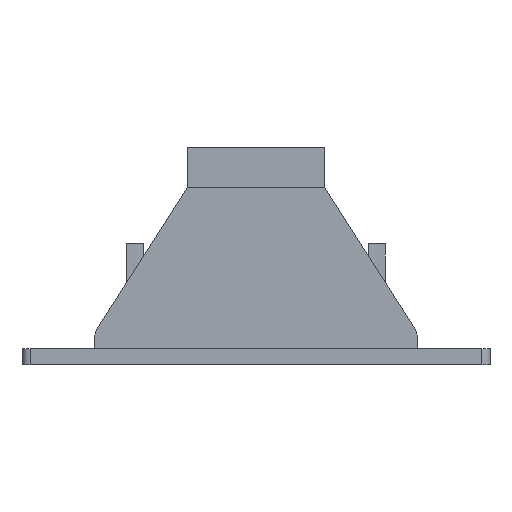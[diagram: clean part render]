
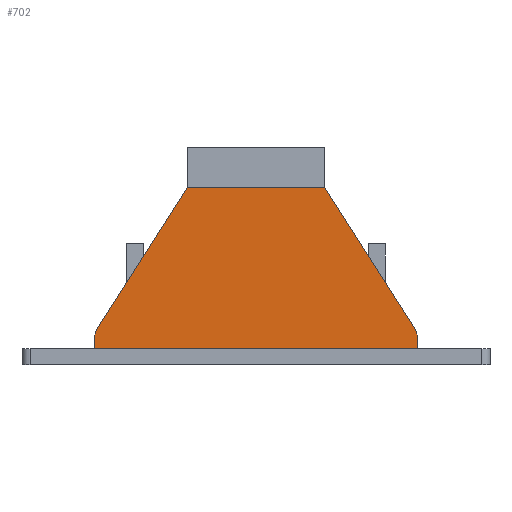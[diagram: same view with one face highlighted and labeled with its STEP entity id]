
A CAD part, front view. The second image highlights one B-rep face of the part: STEP entity #702.
In plain terms, the highlighted planar face has unit normal (0, -1, 0) as drawn and (0, 0, -1) by its records, which use the part's own axes.
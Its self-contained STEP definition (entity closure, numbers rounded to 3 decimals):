
#16 = VERTEX_POINT ( 'NONE', #1475 ) ;
#57 = VECTOR ( 'NONE', #1578, 1000. ) ;
#94 = EDGE_CURVE ( 'NONE', #1702, #635, #941, .T. ) ;
#179 = AXIS2_PLACEMENT_3D ( 'NONE', #959, #737, #2098 ) ;
#180 = ORIENTED_EDGE ( 'NONE', *, *, #1565, .F. ) ;
#342 = CARTESIAN_POINT ( 'NONE',  ( 196.854, -24.924, 0. ) ) ;
#344 = LINE ( 'NONE', #1193, #57 ) ;
#348 = CARTESIAN_POINT ( 'NONE',  ( -200., 0., 0. ) ) ;
#362 = PLANE ( 'NONE',  #1653 ) ;
#382 = CARTESIAN_POINT ( 'NONE',  ( 85., -200., 0. ) ) ;
#400 = DIRECTION ( 'NONE',  ( 1., 0., 0. ) ) ;
#587 = CARTESIAN_POINT ( 'NONE',  ( 200., -14.157, 0. ) ) ;
#616 = VECTOR ( 'NONE', #739, 1000. ) ;
#635 = VERTEX_POINT ( 'NONE', #342 ) ;
#702 = ADVANCED_FACE ( 'NONE', ( #892 ), #362, .T. ) ;
#707 = DIRECTION ( 'NONE',  ( -1., 0., 0. ) ) ;
#712 = VECTOR ( 'NONE', #707, 1000. ) ;
#718 = EDGE_CURVE ( 'NONE', #16, #2157, #1366, .T. ) ;
#737 = DIRECTION ( 'NONE',  ( 0., 0., -1. ) ) ;
#739 = DIRECTION ( 'NONE',  ( 0.538, -0.843, 0. ) ) ;
#769 = LINE ( 'NONE', #1114, #2299 ) ;
#815 = EDGE_CURVE ( 'NONE', #2157, #2007, #2193, .T. ) ;
#841 = CARTESIAN_POINT ( 'NONE',  ( 200., 0., 0. ) ) ;
#844 = ORIENTED_EDGE ( 'NONE', *, *, #718, .F. ) ;
#857 = VECTOR ( 'NONE', #400, 1000. ) ;
#871 = VECTOR ( 'NONE', #1265, 1000. ) ;
#878 = CARTESIAN_POINT ( 'NONE',  ( -180., -14.157, 0. ) ) ;
#892 = FACE_OUTER_BOUND ( 'NONE', #1544, .T. ) ;
#936 = DIRECTION ( 'NONE',  ( 0.538, 0.843, 0. ) ) ;
#939 = CARTESIAN_POINT ( 'NONE',  ( 0., 0., 0. ) ) ;
#941 = CIRCLE ( 'NONE', #179, 20. ) ;
#959 = CARTESIAN_POINT ( 'NONE',  ( 180., -14.157, 0. ) ) ;
#968 = DIRECTION ( 'NONE',  ( -1., 0., 0. ) ) ;
#970 = EDGE_CURVE ( 'NONE', #1702, #1266, #344, .T. ) ;
#985 = ORIENTED_EDGE ( 'NONE', *, *, #94, .T. ) ;
#1083 = ORIENTED_EDGE ( 'NONE', *, *, #2331, .T. ) ;
#1111 = CARTESIAN_POINT ( 'NONE',  ( -200., -20., 0. ) ) ;
#1114 = CARTESIAN_POINT ( 'NONE',  ( 200., -20., 0. ) ) ;
#1172 = VERTEX_POINT ( 'NONE', #1992 ) ;
#1193 = CARTESIAN_POINT ( 'NONE',  ( 200., 0., 0. ) ) ;
#1265 = DIRECTION ( 'NONE',  ( 0., -1., 0. ) ) ;
#1266 = VERTEX_POINT ( 'NONE', #841 ) ;
#1284 = CARTESIAN_POINT ( 'NONE',  ( -200., -14.157, 0. ) ) ;
#1339 = DIRECTION ( 'NONE',  ( 0., 0., -1. ) ) ;
#1366 = LINE ( 'NONE', #2511, #616 ) ;
#1442 = CARTESIAN_POINT ( 'NONE',  ( 85., -200., 0. ) ) ;
#1475 = CARTESIAN_POINT ( 'NONE',  ( -196.854, -24.924, 0. ) ) ;
#1492 = ORIENTED_EDGE ( 'NONE', *, *, #815, .F. ) ;
#1533 = ORIENTED_EDGE ( 'NONE', *, *, #1534, .F. ) ;
#1534 = EDGE_CURVE ( 'NONE', #1266, #1172, #1771, .T. ) ;
#1544 = EDGE_LOOP ( 'NONE', ( #844, #1083, #2524, #1533, #1927, #985, #180, #1492 ) ) ;
#1565 = EDGE_CURVE ( 'NONE', #2007, #635, #769, .T. ) ;
#1578 = DIRECTION ( 'NONE',  ( 0., 1., 0. ) ) ;
#1653 = AXIS2_PLACEMENT_3D ( 'NONE', #939, #1339, #968 ) ;
#1702 = VERTEX_POINT ( 'NONE', #587 ) ;
#1771 = LINE ( 'NONE', #348, #712 ) ;
#1781 = LINE ( 'NONE', #1111, #871 ) ;
#1904 = DIRECTION ( 'NONE',  ( -1., 0., 0. ) ) ;
#1927 = ORIENTED_EDGE ( 'NONE', *, *, #970, .F. ) ;
#1992 = CARTESIAN_POINT ( 'NONE',  ( -200., 0., 0. ) ) ;
#2007 = VERTEX_POINT ( 'NONE', #1442 ) ;
#2082 = AXIS2_PLACEMENT_3D ( 'NONE', #878, #2445, #1904 ) ;
#2098 = DIRECTION ( 'NONE',  ( -1., 0., 0. ) ) ;
#2157 = VERTEX_POINT ( 'NONE', #2431 ) ;
#2193 = LINE ( 'NONE', #382, #857 ) ;
#2239 = EDGE_CURVE ( 'NONE', #1172, #2241, #1781, .T. ) ;
#2241 = VERTEX_POINT ( 'NONE', #1284 ) ;
#2299 = VECTOR ( 'NONE', #936, 1000. ) ;
#2331 = EDGE_CURVE ( 'NONE', #16, #2241, #2528, .T. ) ;
#2431 = CARTESIAN_POINT ( 'NONE',  ( -85., -200., 0. ) ) ;
#2445 = DIRECTION ( 'NONE',  ( 0., 0., -1. ) ) ;
#2511 = CARTESIAN_POINT ( 'NONE',  ( -85., -200., 0. ) ) ;
#2524 = ORIENTED_EDGE ( 'NONE', *, *, #2239, .F. ) ;
#2528 = CIRCLE ( 'NONE', #2082, 20. ) ;
